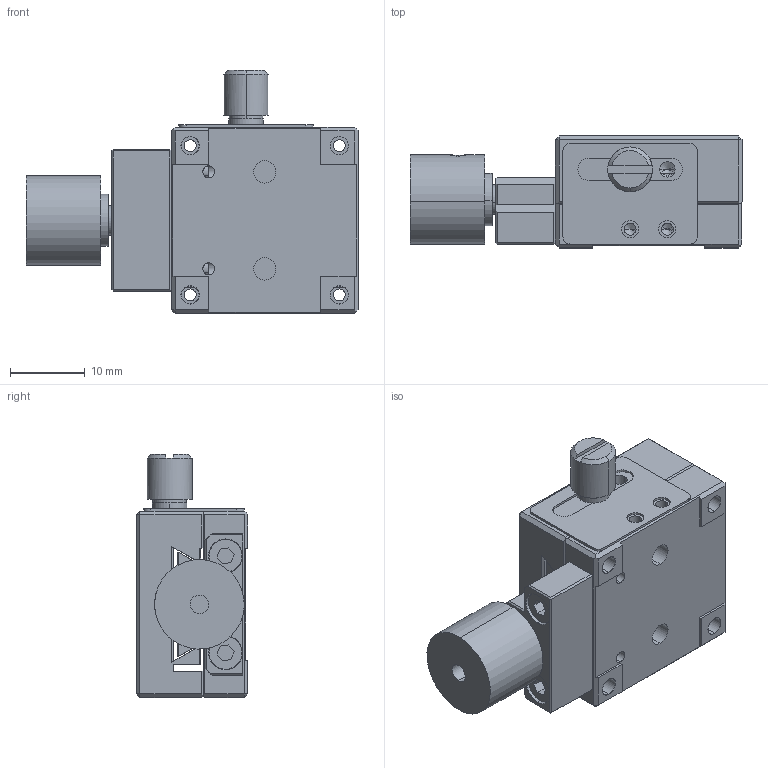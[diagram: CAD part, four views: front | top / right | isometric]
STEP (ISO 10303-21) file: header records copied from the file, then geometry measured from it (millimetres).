
FILE_DESCRIPTION (( 'STEP AP203' ), '1' );
FILE_NAME ('MFX25-R(客戶用圖).STEP', '2018-06-12T03:27:12', ( 'User' ), ( 'No' ), 'SwSTEP 2.0', 'SolidWorks 2012', '' );
FILE_SCHEMA (( 'CONFIG_CONTROL_DESIGN' ));
Length unit declared in the file: millimetre
Products named in the file (3): MFX25-R-A; MFX25-R-B; MFX25-R(客戶用圖)
Assembly tree (2 placements, depth 2):
  MFX25-R(客戶用圖)
    MFX25-R-A
    MFX25-R-B
Bounding box: 44.5 x 15 x 32.6 mm (x, y, z)
Volume: 9725.4 mm3; surface area: 8871.8 mm2
Topology: 2 solids, 4 shells, 432 faces, 1071 edges, 670 vertices
Faces by surface type: plane 216, cylinder 163, cone 53
Entity records: 13395 total; most frequent: CARTESIAN_POINT 2676, DIRECTION 2214, ORIENTED_EDGE 2102, EDGE_CURVE 1051, AXIS2_PLACEMENT_3D 784, VERTEX_POINT 670, VECTOR 646, LINE 646
